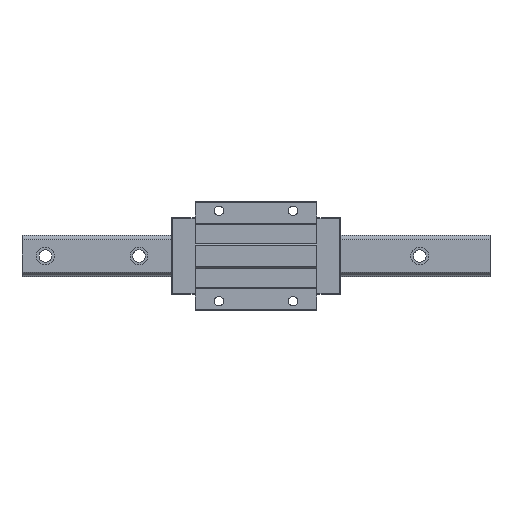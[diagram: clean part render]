
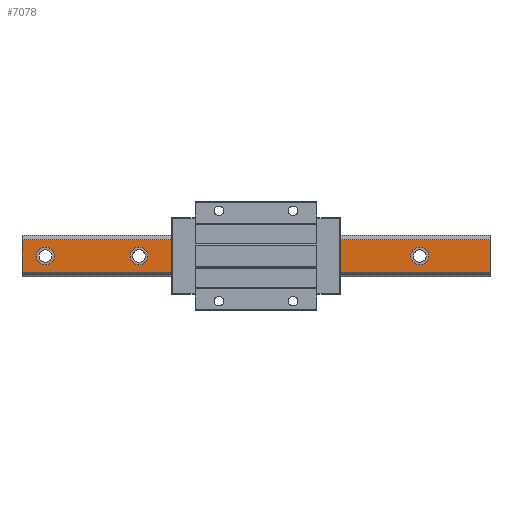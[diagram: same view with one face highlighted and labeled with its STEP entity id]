
A CAD part, top view. The second image highlights one B-rep face of the part: STEP entity #7078.
In plain terms, the highlighted planar face has unit normal (0, 0, 1).
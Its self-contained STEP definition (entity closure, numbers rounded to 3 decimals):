
#17 = CARTESIAN_POINT ( 'NONE',  ( -281.5, 0., 44. ) ) ;
#19 = ORIENTED_EDGE ( 'NONE', *, *, #3420, .F. ) ;
#55 = FACE_BOUND ( 'NONE', #5135, .T. ) ;
#147 = EDGE_CURVE ( 'NONE', #4880, #6147, #1902, .T. ) ;
#178 = DIRECTION ( 'NONE',  ( -1., 0., 0. ) ) ;
#179 = DIRECTION ( 'NONE',  ( 0., -1., 0. ) ) ;
#191 = EDGE_CURVE ( 'NONE', #6147, #4880, #3642, .T. ) ;
#239 = VERTEX_POINT ( 'NONE', #4642 ) ;
#501 = VECTOR ( 'NONE', #1634, 1000. ) ;
#535 = DIRECTION ( 'NONE',  ( 0., 0., 1. ) ) ;
#539 = CIRCLE ( 'NONE', #1790, 11.5 ) ;
#553 = CARTESIAN_POINT ( 'NONE',  ( 101.5, 0., 44. ) ) ;
#557 = DIRECTION ( 'NONE',  ( 0., 0., 1. ) ) ;
#571 = CARTESIAN_POINT ( 'NONE',  ( -270., 0., 44. ) ) ;
#602 = CARTESIAN_POINT ( 'NONE',  ( 210., 0., 44. ) ) ;
#611 = ORIENTED_EDGE ( 'NONE', *, *, #6475, .F. ) ;
#614 = ORIENTED_EDGE ( 'NONE', *, *, #5469, .F. ) ;
#679 = EDGE_CURVE ( 'NONE', #1658, #3547, #901, .T. ) ;
#735 = DIRECTION ( 'NONE',  ( 0., 0., 1. ) ) ;
#747 = DIRECTION ( 'NONE',  ( 1., 0., 0. ) ) ;
#812 = EDGE_CURVE ( 'NONE', #239, #1906, #5971, .T. ) ;
#901 = LINE ( 'NONE', #2424, #4930 ) ;
#1013 = ORIENTED_EDGE ( 'NONE', *, *, #6255, .F. ) ;
#1074 = DIRECTION ( 'NONE',  ( 1., 0., 0. ) ) ;
#1095 = EDGE_CURVE ( 'NONE', #4616, #5038, #539, .T. ) ;
#1145 = CARTESIAN_POINT ( 'NONE',  ( -300., 20.932, 44. ) ) ;
#1155 = CARTESIAN_POINT ( 'NONE',  ( 210., 0., 44. ) ) ;
#1216 = CARTESIAN_POINT ( 'NONE',  ( -258.5, 0., 44. ) ) ;
#1234 = DIRECTION ( 'NONE',  ( 0., 0., -1. ) ) ;
#1269 = VERTEX_POINT ( 'NONE', #1145 ) ;
#1292 = CARTESIAN_POINT ( 'NONE',  ( -150., 0., 44. ) ) ;
#1487 = AXIS2_PLACEMENT_3D ( 'NONE', #5245, #6868, #747 ) ;
#1595 = PLANE ( 'NONE',  #4282 ) ;
#1634 = DIRECTION ( 'NONE',  ( 0., -1., 0. ) ) ;
#1658 = VERTEX_POINT ( 'NONE', #6500 ) ;
#1679 = DIRECTION ( 'NONE',  ( 0., 0., 1. ) ) ;
#1736 = DIRECTION ( 'NONE',  ( 0., 0., 1. ) ) ;
#1747 = VERTEX_POINT ( 'NONE', #6092 ) ;
#1750 = DIRECTION ( 'NONE',  ( 1., 0., 0. ) ) ;
#1790 = AXIS2_PLACEMENT_3D ( 'NONE', #2509, #6363, #5919 ) ;
#1791 = ORIENTED_EDGE ( 'NONE', *, *, #1095, .F. ) ;
#1824 = ORIENTED_EDGE ( 'NONE', *, *, #6374, .T. ) ;
#1902 = CIRCLE ( 'NONE', #3765, 11.5 ) ;
#1906 = VERTEX_POINT ( 'NONE', #2316 ) ;
#1917 = EDGE_CURVE ( 'NONE', #1269, #3547, #4458, .T. ) ;
#2070 = CIRCLE ( 'NONE', #3912, 11.5 ) ;
#2105 = CARTESIAN_POINT ( 'NONE',  ( -161.5, 0., 44. ) ) ;
#2123 = VERTEX_POINT ( 'NONE', #2105 ) ;
#2145 = FACE_BOUND ( 'NONE', #2543, .T. ) ;
#2157 = AXIS2_PLACEMENT_3D ( 'NONE', #602, #535, #3859 ) ;
#2212 = CARTESIAN_POINT ( 'NONE',  ( 78.5, 0., 44. ) ) ;
#2265 = ORIENTED_EDGE ( 'NONE', *, *, #191, .F. ) ;
#2274 = FACE_BOUND ( 'NONE', #3179, .T. ) ;
#2316 = CARTESIAN_POINT ( 'NONE',  ( 198.5, 0., 44. ) ) ;
#2363 = CARTESIAN_POINT ( 'NONE',  ( 90., 0., 44. ) ) ;
#2389 = VECTOR ( 'NONE', #179, 1000. ) ;
#2405 = CIRCLE ( 'NONE', #5654, 11.5 ) ;
#2406 = DIRECTION ( 'NONE',  ( 0., 0., 1. ) ) ;
#2424 = CARTESIAN_POINT ( 'NONE',  ( 300., -20.932, 44. ) ) ;
#2463 = VECTOR ( 'NONE', #6506, 1000. ) ;
#2477 = CARTESIAN_POINT ( 'NONE',  ( -138.5, 0., 44. ) ) ;
#2486 = ORIENTED_EDGE ( 'NONE', *, *, #679, .F. ) ;
#2509 = CARTESIAN_POINT ( 'NONE',  ( -270., 0., 44. ) ) ;
#2543 = EDGE_LOOP ( 'NONE', ( #3023, #19 ) ) ;
#2588 = EDGE_LOOP ( 'NONE', ( #6710, #2265 ) ) ;
#2702 = CIRCLE ( 'NONE', #6746, 11.5 ) ;
#2825 = CARTESIAN_POINT ( 'NONE',  ( -30., 0., 44. ) ) ;
#2865 = CIRCLE ( 'NONE', #5763, 11.5 ) ;
#2876 = CARTESIAN_POINT ( 'NONE',  ( -300., -20.932, 44. ) ) ;
#2888 = VERTEX_POINT ( 'NONE', #553 ) ;
#2926 = CIRCLE ( 'NONE', #4089, 11.5 ) ;
#3023 = ORIENTED_EDGE ( 'NONE', *, *, #812, .F. ) ;
#3094 = CARTESIAN_POINT ( 'NONE',  ( -18.5, 0., 44. ) ) ;
#3179 = EDGE_LOOP ( 'NONE', ( #6519, #1791 ) ) ;
#3237 = LINE ( 'NONE', #6542, #2463 ) ;
#3420 = EDGE_CURVE ( 'NONE', #1906, #239, #2865, .T. ) ;
#3426 = EDGE_CURVE ( 'NONE', #5038, #4616, #2405, .T. ) ;
#3494 = DIRECTION ( 'NONE',  ( 1., 0., 0. ) ) ;
#3547 = VERTEX_POINT ( 'NONE', #2876 ) ;
#3557 = EDGE_CURVE ( 'NONE', #3616, #2123, #6918, .T. ) ;
#3567 = DIRECTION ( 'NONE',  ( 0., 0., 1. ) ) ;
#3616 = VERTEX_POINT ( 'NONE', #2477 ) ;
#3642 = CIRCLE ( 'NONE', #4923, 11.5 ) ;
#3765 = AXIS2_PLACEMENT_3D ( 'NONE', #2825, #735, #6816 ) ;
#3859 = DIRECTION ( 'NONE',  ( 1., 0., 0. ) ) ;
#3907 = EDGE_CURVE ( 'NONE', #2888, #4228, #2070, .T. ) ;
#3912 = AXIS2_PLACEMENT_3D ( 'NONE', #2363, #3567, #5631 ) ;
#3915 = DIRECTION ( 'NONE',  ( 1., 0., 0. ) ) ;
#3928 = DIRECTION ( 'NONE',  ( 1., 0., 0. ) ) ;
#3981 = CARTESIAN_POINT ( 'NONE',  ( -300., -20.932, 44. ) ) ;
#4089 = AXIS2_PLACEMENT_3D ( 'NONE', #1292, #2406, #3494 ) ;
#4178 = ORIENTED_EDGE ( 'NONE', *, *, #3557, .F. ) ;
#4228 = VERTEX_POINT ( 'NONE', #2212 ) ;
#4282 = AXIS2_PLACEMENT_3D ( 'NONE', #6876, #1234, #6304 ) ;
#4349 = FACE_OUTER_BOUND ( 'NONE', #5610, .T. ) ;
#4392 = CARTESIAN_POINT ( 'NONE',  ( 300., -20.932, 44. ) ) ;
#4458 = LINE ( 'NONE', #3981, #2389 ) ;
#4484 = FACE_BOUND ( 'NONE', #2588, .T. ) ;
#4555 = EDGE_LOOP ( 'NONE', ( #5455, #611 ) ) ;
#4616 = VERTEX_POINT ( 'NONE', #17 ) ;
#4642 = CARTESIAN_POINT ( 'NONE',  ( 221.5, 0., 44. ) ) ;
#4742 = ORIENTED_EDGE ( 'NONE', *, *, #1917, .T. ) ;
#4880 = VERTEX_POINT ( 'NONE', #3094 ) ;
#4902 = FACE_BOUND ( 'NONE', #4555, .T. ) ;
#4923 = AXIS2_PLACEMENT_3D ( 'NONE', #6241, #1736, #3915 ) ;
#4930 = VECTOR ( 'NONE', #178, 1000. ) ;
#5038 = VERTEX_POINT ( 'NONE', #1216 ) ;
#5135 = EDGE_LOOP ( 'NONE', ( #4178, #1013 ) ) ;
#5245 = CARTESIAN_POINT ( 'NONE',  ( -150., 0., 44. ) ) ;
#5455 = ORIENTED_EDGE ( 'NONE', *, *, #3907, .F. ) ;
#5469 = EDGE_CURVE ( 'NONE', #1747, #1658, #6096, .T. ) ;
#5607 = DIRECTION ( 'NONE',  ( 0., 0., 1. ) ) ;
#5610 = EDGE_LOOP ( 'NONE', ( #4742, #2486, #614, #1824 ) ) ;
#5631 = DIRECTION ( 'NONE',  ( 1., 0., 0. ) ) ;
#5654 = AXIS2_PLACEMENT_3D ( 'NONE', #571, #1679, #1750 ) ;
#5763 = AXIS2_PLACEMENT_3D ( 'NONE', #1155, #5607, #3928 ) ;
#5919 = DIRECTION ( 'NONE',  ( 1., 0., 0. ) ) ;
#5971 = CIRCLE ( 'NONE', #2157, 11.5 ) ;
#6092 = CARTESIAN_POINT ( 'NONE',  ( 300., 20.932, 44. ) ) ;
#6096 = LINE ( 'NONE', #4392, #501 ) ;
#6147 = VERTEX_POINT ( 'NONE', #6711 ) ;
#6241 = CARTESIAN_POINT ( 'NONE',  ( -30., 0., 44. ) ) ;
#6255 = EDGE_CURVE ( 'NONE', #2123, #3616, #2926, .T. ) ;
#6304 = DIRECTION ( 'NONE',  ( 0., -1., 0. ) ) ;
#6363 = DIRECTION ( 'NONE',  ( 0., 0., 1. ) ) ;
#6374 = EDGE_CURVE ( 'NONE', #1747, #1269, #3237, .T. ) ;
#6475 = EDGE_CURVE ( 'NONE', #4228, #2888, #2702, .T. ) ;
#6500 = CARTESIAN_POINT ( 'NONE',  ( 300., -20.932, 44. ) ) ;
#6506 = DIRECTION ( 'NONE',  ( -1., 0., 0. ) ) ;
#6519 = ORIENTED_EDGE ( 'NONE', *, *, #3426, .F. ) ;
#6542 = CARTESIAN_POINT ( 'NONE',  ( 300., 20.932, 44. ) ) ;
#6710 = ORIENTED_EDGE ( 'NONE', *, *, #147, .F. ) ;
#6711 = CARTESIAN_POINT ( 'NONE',  ( -41.5, 0., 44. ) ) ;
#6746 = AXIS2_PLACEMENT_3D ( 'NONE', #7119, #557, #1074 ) ;
#6816 = DIRECTION ( 'NONE',  ( 1., 0., 0. ) ) ;
#6868 = DIRECTION ( 'NONE',  ( 0., 0., 1. ) ) ;
#6876 = CARTESIAN_POINT ( 'NONE',  ( 300., -20.932, 44. ) ) ;
#6918 = CIRCLE ( 'NONE', #1487, 11.5 ) ;
#7078 = ADVANCED_FACE ( 'NONE', ( #55, #2274, #4484, #4902, #2145, #4349 ), #1595, .F. ) ;
#7119 = CARTESIAN_POINT ( 'NONE',  ( 90., 0., 44. ) ) ;
